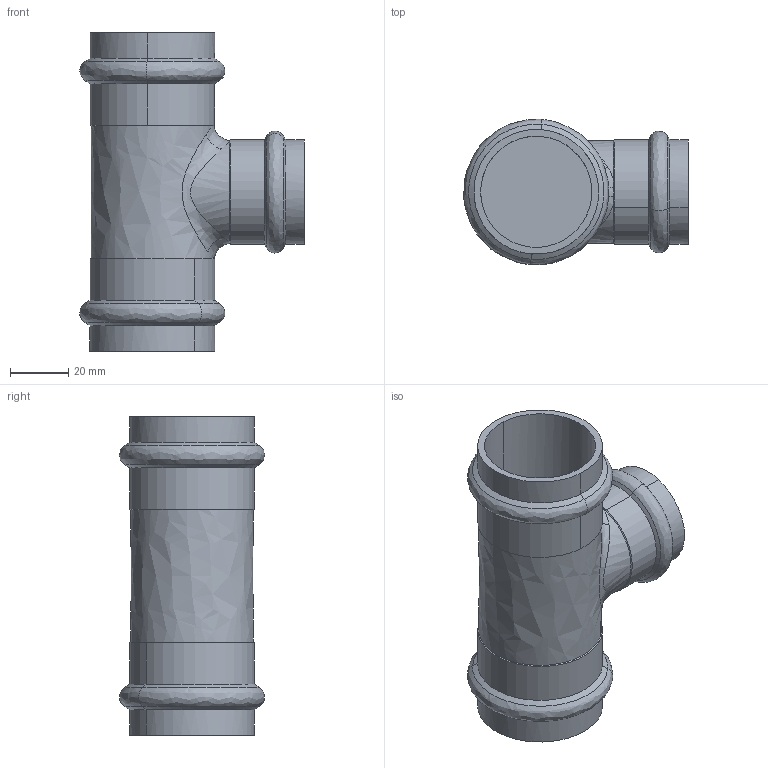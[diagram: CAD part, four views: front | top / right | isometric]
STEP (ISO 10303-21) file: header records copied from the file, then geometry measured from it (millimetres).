
FILE_DESCRIPTION(('STEP AP214'),'1');
FILE_NAME('pim0004528.stp','2015-04-30T14:39:29',('Cad-Pim'),('TransMagic, Inc.'),'TMR11sp0','TransMagic R11',' ');
FILE_SCHEMA(('AUTOMOTIVE_DESIGN'));
Length unit declared in the file: millimetre
Products named in the file (1): pim0004528
Bounding box: 76.83 x 49.71 x 109 mm (x, y, z)
Volume: 104990.7 mm3; surface area: 32725.6 mm2
Topology: 1 solids, 1 shells, 57 faces, 156 edges, 104 vertices
Faces by surface type: bspline 23, cylinder 18, cone 16
Entity records: 3330 total; most frequent: CARTESIAN_POINT 1653, ORIENTED_EDGE 312, DIRECTION 187, EDGE_CURVE 156, VERTEX_POINT 104, AXIS2_PLACEMENT_3D 75, EDGE_LOOP 60, STYLED_ITEM 58
